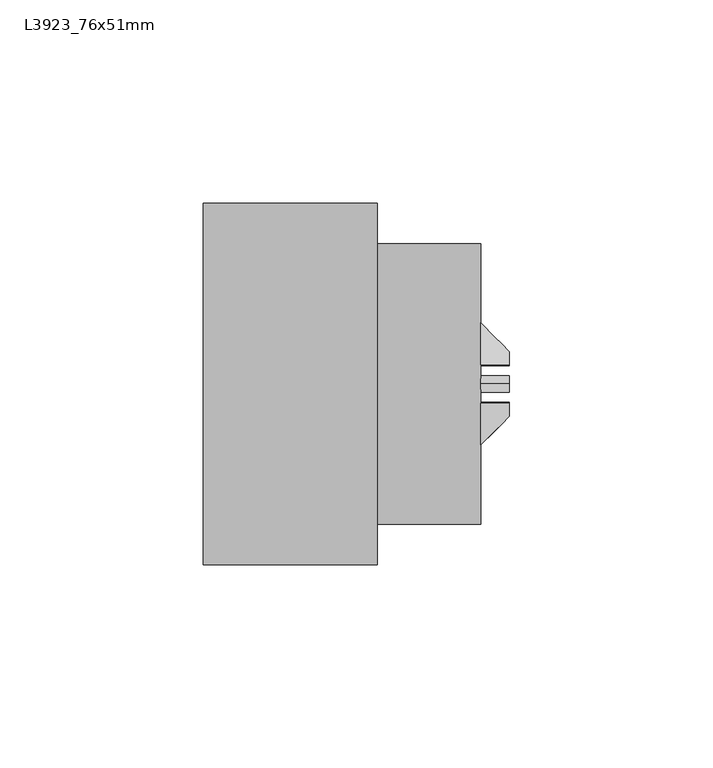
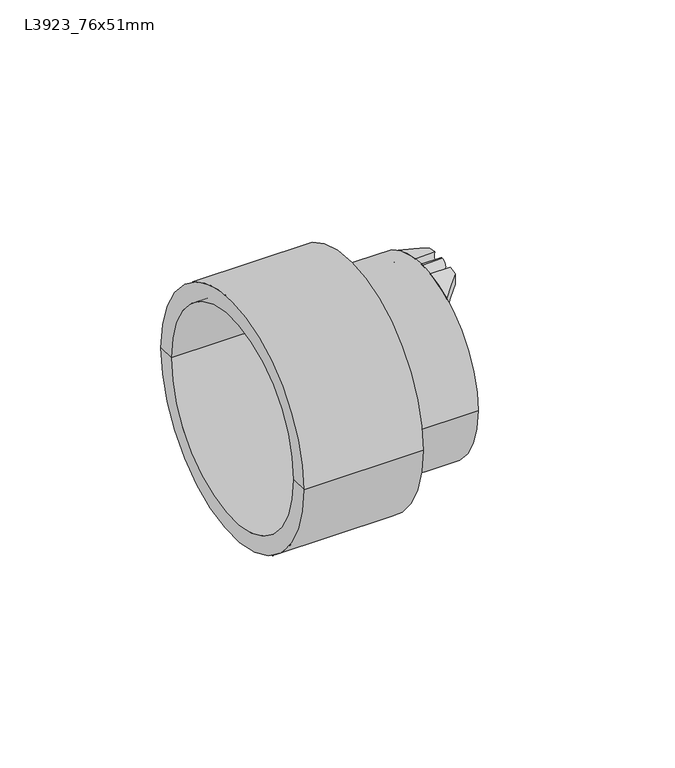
"""IFC4 building model written with IfcOpenShell, lengths in millimetres: pipe fitting geometry, Durapipe_PipeFitting_VulcatheneEnfusion_ReducingCoupler_L39 : L3923_76x51mm."""

from ifc_helpers import new_model, si_unit, point, frame, frame_2d, origin, place, context, project, spatial, polyline, circle_curve, ellipse_curve, trimmed, segment, composite_curve, outline, extrude, source, transform, mapped, element, save
from ifc_brep_helpers import plane_surface, cylinder_surface, revolved_surface, advanced_brep


def l3923_76x51mm_51930300(model_context):
    return source(origin(), model_context, "Body", "SolidModel", [
        advanced_brep(
        [(41.2, -4.4634463, 30.1716365), (41.2, -4.7382225, 34.0216365), (41.2, -7.94, 33.4197382), (41.2, -7.94, 29.4483684), (34.1, -15.0, 30.9018203), (34.1, -4.7382225, 34.0216365), (34.1, -4.4634463, 30.1716365), (34.1, -15.0, 26.5565434)],
        [
            (0, 1, circle_curve(frame((41.2, 0.0, 32.425), z_axis=(-1.0, 0.0, 0.0), x_axis=(0.0, 0.0, -1.0)), 5.0)),
            (1, 2, circle_curve(frame((41.2, 0.0, 0.0), z_axis=(1.0, 0.0, 0.0), x_axis=(0.0, 0.0, -1.0)), 34.35)),
            (2, 3),
            (3, 0, circle_curve(frame((41.2, 0.0, 0.0), z_axis=(-1.0, 0.0, 0.0), x_axis=(0.0, 0.0, -1.0)), 30.5)),
            (4, 5, circle_curve(frame((34.1, 0.0, 0.0), z_axis=(-1.0, 0.0, 0.0), x_axis=(0.0, 0.0, -1.0)), 34.35)),
            (5, 6, circle_curve(frame((34.1, 0.0, 32.425), z_axis=(1.0, 0.0, 0.0), x_axis=(0.0, 0.0, -1.0)), 5.0)),
            (6, 7, circle_curve(frame((34.1, 0.0, 0.0), z_axis=(1.0, 0.0, 0.0), x_axis=(0.0, 0.0, -1.0)), 30.5)),
            (7, 4),
            (6, 0),
            (3, 7, ellipse_curve(frame((49.1849858, 0.0, 0.0), z_axis=(0.7051064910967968, -0.7091014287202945, 0.0), x_axis=(-0.7091014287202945, -0.7051064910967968, 0.0)), 43.2558775, 30.5)),
            (4, 2, ellipse_curve(frame((49.1849858, 0.0, 0.0), z_axis=(-0.7051064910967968, 0.7091014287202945, 0.0), x_axis=(0.7091014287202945, 0.7051064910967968, 0.0)), 48.7160456, 34.35)),
            (1, 5),
        ],
        [
            plane_surface(frame((41.2, -15.0, 30.9018203), z_axis=(1.0, 0.0, 0.0), x_axis=(0.0, 0.0, -1.0))),
            plane_surface(frame((34.1, -15.0, 30.9018203), z_axis=(-1.0, 0.0, 0.0), x_axis=(0.0, 0.0, 1.0))),
            revolved_surface(polyline([(18.512181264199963, 0.0, -30.5), (79.85779033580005, 0.0, -30.5)]), (34.1, 0.0, 0.0), (-1.0, 0.0, 0.0)),
            cylinder_surface(frame((34.1, 0.0, 0.0), z_axis=(1.0, 0.0, 0.0), x_axis=(0.0, 0.0, -1.0)), 34.35),
            revolved_surface(polyline([(41.2, 0.0, 27.424999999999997), (34.1, 0.0, 27.424999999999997)]), (34.1, 0.0, 32.425), (1.0, 0.0, 0.0)),
            plane_surface(frame((34.1, -15.0, -34.35), z_axis=(0.7051064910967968, -0.7091014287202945, 0.0), x_axis=(0.0, 0.0, 1.0))),
        ],
        [
            (0, [[1, 2, 3, 4]]),
            (1, [[5, 6, 7, 8]]),
            (2, [[-7, 9, -4, 10]]),
            (3, [[-5, 11, -2, 12]]),
            (4, [[-1, -9, -6, -12]]),
            (5, [[-3, -11, -8, -10]]),
        ],
    ),
        advanced_brep(
        [(41.2, 4.7382225, 34.0216365), (41.2, 4.4634463, 30.1716365), (41.2, 7.94, 29.4483684), (41.2, 7.94, 33.4197382), (34.1, 4.7382225, 34.0216365), (34.1, 15.0, 30.9018203), (34.1, 15.0, 26.5565434), (34.1, 4.4634463, 30.1716365)],
        [
            (0, 1, circle_curve(frame((41.2, 0.0, 32.425), z_axis=(-1.0, 0.0, 0.0), x_axis=(0.0, 0.0, -1.0)), 5.0)),
            (1, 2, circle_curve(frame((41.2, 0.0, 0.0), z_axis=(-1.0, 0.0, 0.0), x_axis=(0.0, 0.0, -1.0)), 30.5)),
            (2, 3),
            (3, 0, circle_curve(frame((41.2, 0.0, 0.0), z_axis=(1.0, 0.0, 0.0), x_axis=(0.0, 0.0, -1.0)), 34.35)),
            (4, 5, circle_curve(frame((34.1, 0.0, 0.0), z_axis=(-1.0, 0.0, 0.0), x_axis=(0.0, 0.0, -1.0)), 34.35)),
            (5, 6),
            (6, 7, circle_curve(frame((34.1, 0.0, 0.0), z_axis=(1.0, 0.0, 0.0), x_axis=(0.0, 0.0, -1.0)), 30.5)),
            (7, 4, circle_curve(frame((34.1, 0.0, 32.425), z_axis=(1.0, 0.0, 0.0), x_axis=(0.0, 0.0, -1.0)), 5.0)),
            (6, 2, ellipse_curve(frame((49.1849858, 0.0, 0.0), z_axis=(0.7051064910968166, 0.7091014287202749, 0.0), x_axis=(-0.7091014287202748, 0.7051064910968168, 0.0)), 43.2558775, 30.5)),
            (1, 7),
            (4, 0),
            (3, 5, ellipse_curve(frame((49.1849858, 0.0, 0.0), z_axis=(-0.7051064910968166, -0.7091014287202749, 0.0), x_axis=(0.7091014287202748, -0.7051064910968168, 0.0)), 48.7160456, 34.35)),
        ],
        [
            plane_surface(frame((41.2, -15.0, 30.9018203), z_axis=(1.0, 0.0, 0.0), x_axis=(0.0, 0.0, -1.0))),
            plane_surface(frame((34.1, -15.0, 30.9018203), z_axis=(-1.0, 0.0, 0.0), x_axis=(0.0, 0.0, 1.0))),
            revolved_surface(polyline([(18.512181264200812, 0.0, -30.5), (79.8577903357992, 0.0, -30.5)]), (34.1, 0.0, 0.0), (-1.0, 0.0, 0.0)),
            cylinder_surface(frame((34.1, 0.0, 0.0), z_axis=(1.0, 0.0, 0.0), x_axis=(0.0, 0.0, -1.0)), 34.35),
            revolved_surface(polyline([(41.2, 0.0, 27.424999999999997), (34.1, 0.0, 27.424999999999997)]), (34.1, 0.0, 32.425), (1.0, 0.0, 0.0)),
            plane_surface(frame((41.2, 7.94, -34.35), z_axis=(0.7051064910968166, 0.7091014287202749, 0.0), x_axis=(0.0, 0.0, 1.0))),
        ],
        [
            (0, [[1, 2, 3, 4]]),
            (1, [[5, 6, 7, 8]]),
            (2, [[-7, 9, -2, 10]]),
            (3, [[-5, 11, -4, 12]]),
            (4, [[-1, -11, -8, -10]]),
            (5, [[-3, -9, -6, -12]]),
        ],
    ),
        advanced_brep(
        [(41.2, -4.7382225, -34.0216365), (41.2, -4.4634463, -30.1716365), (41.2, -7.94, -29.4483684), (41.2, -7.94, -33.4197382), (34.1, -4.7382225, -34.0216365), (34.1, -15.0, -30.9018203), (34.1, -15.0, -26.5565434), (34.1, -4.4634463, -30.1716365)],
        [
            (0, 1, circle_curve(frame((41.2, 0.0, -32.425), z_axis=(-1.0, 0.0, 0.0), x_axis=(0.0, 0.0, -1.0)), 5.0)),
            (1, 2, circle_curve(frame((41.2, 0.0, 0.0), z_axis=(-1.0, 0.0, 0.0), x_axis=(0.0, 0.0, -1.0)), 30.5)),
            (2, 3),
            (3, 0, circle_curve(frame((41.2, 0.0, 0.0), z_axis=(1.0, 0.0, 0.0), x_axis=(0.0, 0.0, -1.0)), 34.35)),
            (4, 5, circle_curve(frame((34.1, 0.0, 0.0), z_axis=(-1.0, 0.0, 0.0), x_axis=(0.0, 0.0, -1.0)), 34.35)),
            (5, 6),
            (6, 7, circle_curve(frame((34.1, 0.0, 0.0), z_axis=(1.0, 0.0, 0.0), x_axis=(0.0, 0.0, -1.0)), 30.5)),
            (7, 4, circle_curve(frame((34.1, 0.0, -32.425), z_axis=(1.0, 0.0, 0.0), x_axis=(0.0, 0.0, -1.0)), 5.0)),
            (6, 2, ellipse_curve(frame((49.1849858, 0.0, 0.0), z_axis=(0.7051064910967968, -0.7091014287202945, 0.0), x_axis=(-0.7091014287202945, -0.7051064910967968, 0.0)), 43.2558775, 30.5)),
            (1, 7),
            (4, 0),
            (3, 5, ellipse_curve(frame((49.1849858, 0.0, 0.0), z_axis=(-0.7051064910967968, 0.7091014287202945, 0.0), x_axis=(0.7091014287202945, 0.7051064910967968, 0.0)), 48.7160456, 34.35)),
        ],
        [
            plane_surface(frame((41.2, -15.0, 30.9018203), z_axis=(1.0, 0.0, 0.0), x_axis=(0.0, 0.0, -1.0))),
            plane_surface(frame((34.1, -15.0, 30.9018203), z_axis=(-1.0, 0.0, 0.0), x_axis=(0.0, 0.0, 1.0))),
            revolved_surface(polyline([(18.512181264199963, 0.0, -30.5), (79.85779033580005, 0.0, -30.5)]), (34.1, 0.0, 0.0), (-1.0, 0.0, 0.0)),
            cylinder_surface(frame((34.1, 0.0, 0.0), z_axis=(1.0, 0.0, 0.0), x_axis=(0.0, 0.0, -1.0)), 34.35),
            revolved_surface(polyline([(41.2, 0.0, -37.425), (34.1, 0.0, -37.425)]), (34.1, 0.0, -32.425), (1.0, 0.0, 0.0)),
            plane_surface(frame((34.1, -15.0, -34.35), z_axis=(0.7051064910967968, -0.7091014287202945, 0.0), x_axis=(0.0, 0.0, 1.0))),
        ],
        [
            (0, [[1, 2, 3, 4]]),
            (1, [[5, 6, 7, 8]]),
            (2, [[-7, 9, -2, 10]]),
            (3, [[-5, 11, -4, 12]]),
            (4, [[-1, -11, -8, -10]]),
            (5, [[-3, -9, -6, -12]]),
        ],
    ),
        advanced_brep(
        [(41.2, 4.4634463, -30.1716365), (41.2, 4.7382225, -34.0216365), (41.2, 7.94, -33.4197382), (41.2, 7.94, -29.4483684), (34.1, 15.0, -30.9018203), (34.1, 4.7382225, -34.0216365), (34.1, 4.4634463, -30.1716365), (34.1, 15.0, -26.5565434)],
        [
            (0, 1, circle_curve(frame((41.2, 0.0, -32.425), z_axis=(-1.0, 0.0, 0.0), x_axis=(0.0, 0.0, -1.0)), 5.0)),
            (1, 2, circle_curve(frame((41.2, 0.0, 0.0), z_axis=(1.0, 0.0, 0.0), x_axis=(0.0, 0.0, -1.0)), 34.35)),
            (2, 3),
            (3, 0, circle_curve(frame((41.2, 0.0, 0.0), z_axis=(-1.0, 0.0, 0.0), x_axis=(0.0, 0.0, -1.0)), 30.5)),
            (4, 5, circle_curve(frame((34.1, 0.0, 0.0), z_axis=(-1.0, 0.0, 0.0), x_axis=(0.0, 0.0, -1.0)), 34.35)),
            (5, 6, circle_curve(frame((34.1, 0.0, -32.425), z_axis=(1.0, 0.0, 0.0), x_axis=(0.0, 0.0, -1.0)), 5.0)),
            (6, 7, circle_curve(frame((34.1, 0.0, 0.0), z_axis=(1.0, 0.0, 0.0), x_axis=(0.0, 0.0, -1.0)), 30.5)),
            (7, 4),
            (6, 0),
            (3, 7, ellipse_curve(frame((49.1849858, 0.0, 0.0), z_axis=(0.7051064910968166, 0.7091014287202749, 0.0), x_axis=(-0.7091014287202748, 0.7051064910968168, 0.0)), 43.2558775, 30.5)),
            (4, 2, ellipse_curve(frame((49.1849858, 0.0, 0.0), z_axis=(-0.7051064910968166, -0.7091014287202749, 0.0), x_axis=(0.7091014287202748, -0.7051064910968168, 0.0)), 48.7160456, 34.35)),
            (1, 5),
        ],
        [
            plane_surface(frame((41.2, -15.0, 30.9018203), z_axis=(1.0, 0.0, 0.0), x_axis=(0.0, 0.0, -1.0))),
            plane_surface(frame((34.1, -15.0, 30.9018203), z_axis=(-1.0, 0.0, 0.0), x_axis=(0.0, 0.0, 1.0))),
            revolved_surface(polyline([(18.512181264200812, 0.0, -30.5), (79.8577903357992, 0.0, -30.5)]), (34.1, 0.0, 0.0), (-1.0, 0.0, 0.0)),
            cylinder_surface(frame((34.1, 0.0, 0.0), z_axis=(1.0, 0.0, 0.0), x_axis=(0.0, 0.0, -1.0)), 34.35),
            revolved_surface(polyline([(41.2, 0.0, -37.425), (34.1, 0.0, -37.425)]), (34.1, 0.0, -32.425), (1.0, 0.0, 0.0)),
            plane_surface(frame((41.2, 7.94, -34.35), z_axis=(0.7051064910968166, 0.7091014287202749, 0.0), x_axis=(0.0, 0.0, 1.0))),
        ],
        [
            (0, [[1, 2, 3, 4]]),
            (1, [[5, 6, 7, 8]]),
            (2, [[-7, 9, -4, 10]]),
            (3, [[-5, 11, -2, 12]]),
            (4, [[-1, -9, -6, -12]]),
            (5, [[-3, -11, -8, -10]]),
        ],
    ),
        extrude(outline(composite_curve([segment(trimmed(circle_curve(frame_2d((0.0, 32.425)), 2.0), [point((0.0, 34.425))], [point((0.0, 30.425))], False, "CARTESIAN"), True, "CONTINUOUS"), segment(trimmed(circle_curve(frame_2d((0.0, 32.425)), 2.0), [point((0.0, 30.425))], [point((0.0, 34.425))], False, "CARTESIAN"), True, "CONTINUOUS")], self_intersect=False)), frame((34.1, 0.0, 0.0), z_axis=(1.0, 0.0, 0.0), x_axis=(0.0, 1.0, 0.0)), (0.0, 0.0, 1.0), 7.1),
        extrude(outline(composite_curve([segment(trimmed(circle_curve(frame_2d((0.0, -32.425)), 2.0), [point((0.0, -30.425))], [point((0.0, -34.425))], False, "CARTESIAN"), True, "CONTINUOUS"), segment(trimmed(circle_curve(frame_2d((0.0, -32.425)), 2.0), [point((0.0, -34.425))], [point((0.0, -30.425))], False, "CARTESIAN"), True, "CONTINUOUS")], self_intersect=False)), frame((34.1, 0.0, 0.0), z_axis=(1.0, 0.0, 0.0), x_axis=(0.0, 1.0, 0.0)), (0.0, 0.0, 1.0), 7.1),
        advanced_brep(
        [(8.7, -44.45, 0.0), (8.7, 44.45, 0.0), (8.7, 34.5, 0.0), (8.7, -34.5, 0.0), (-34.1, -44.45, 0.0), (-34.1, 44.45, 0.0), (-34.1, -38.1, 0.0), (-34.1, 38.1, 0.0), (0.7, -38.1, 0.0), (0.7, 38.1, 0.0), (34.1, -30.35, 0.0), (34.1, 30.35, 0.0), (8.7, 30.35, 0.0), (8.7, -30.35, 0.0), (34.1, -34.5, 0.0), (34.1, 34.5, 0.0), (0.7, -25.45, 0.0), (0.7, 25.45, 0.0), (8.7, -25.45, 0.0), (8.7, 25.45, 0.0)],
        [
            (0, 1, circle_curve(frame((8.7, 0.0, 0.0), z_axis=(1.0, 0.0, 0.0), x_axis=(0.0, 1.0, 0.0)), 44.45)),
            (1, 2),
            (2, 3, circle_curve(frame((8.7, 0.0, 0.0), z_axis=(-1.0, 0.0, 0.0), x_axis=(0.0, 1.0, 0.0)), 34.5)),
            (3, 0),
            (1, 0, circle_curve(frame((8.7, 0.0, 0.0), z_axis=(1.0, 0.0, 0.0), x_axis=(0.0, 1.0, 0.0)), 44.45)),
            (3, 2, circle_curve(frame((8.7, 0.0, 0.0), z_axis=(-1.0, 0.0, 0.0), x_axis=(0.0, 1.0, 0.0)), 34.5)),
            (4, 5, circle_curve(frame((-34.1, 0.0, 0.0), z_axis=(1.0, 0.0, 0.0), x_axis=(0.0, 1.0, 0.0)), 44.45)),
            (5, 1),
            (0, 4),
            (5, 4, circle_curve(frame((-34.1, 0.0, 0.0), z_axis=(1.0, 0.0, 0.0), x_axis=(0.0, 1.0, 0.0)), 44.45)),
            (6, 7, circle_curve(frame((-34.1, 0.0, 0.0), z_axis=(1.0, 0.0, 0.0), x_axis=(0.0, 1.0, 0.0)), 38.1)),
            (7, 5),
            (4, 6),
            (7, 6, circle_curve(frame((-34.1, 0.0, 0.0), z_axis=(1.0, 0.0, 0.0), x_axis=(0.0, 1.0, 0.0)), 38.1)),
            (8, 9, circle_curve(frame((0.7, 0.0, 0.0), z_axis=(1.0, 0.0, 0.0), x_axis=(0.0, 1.0, 0.0)), 38.1)),
            (9, 7),
            (6, 8),
            (9, 8, circle_curve(frame((0.7, 0.0, 0.0), z_axis=(1.0, 0.0, 0.0), x_axis=(0.0, 1.0, 0.0)), 38.1)),
            (10, 11, circle_curve(frame((34.1, 0.0, 0.0), z_axis=(1.0, 0.0, 0.0), x_axis=(0.0, 1.0, 0.0)), 30.35)),
            (11, 12),
            (12, 13, circle_curve(frame((8.7, 0.0, 0.0), z_axis=(-1.0, 0.0, 0.0), x_axis=(0.0, 1.0, 0.0)), 30.35)),
            (13, 10),
            (11, 10, circle_curve(frame((34.1, 0.0, 0.0), z_axis=(1.0, 0.0, 0.0), x_axis=(0.0, 1.0, 0.0)), 30.35)),
            (13, 12, circle_curve(frame((8.7, 0.0, 0.0), z_axis=(-1.0, 0.0, 0.0), x_axis=(0.0, 1.0, 0.0)), 30.35)),
            (14, 15, circle_curve(frame((34.1, 0.0, 0.0), z_axis=(1.0, 0.0, 0.0), x_axis=(0.0, 1.0, 0.0)), 34.5)),
            (15, 11),
            (10, 14),
            (15, 14, circle_curve(frame((34.1, 0.0, 0.0), z_axis=(1.0, 0.0, 0.0), x_axis=(0.0, 1.0, 0.0)), 34.5)),
            (2, 15),
            (14, 3),
            (16, 17, circle_curve(frame((0.7, 0.0, 0.0), z_axis=(1.0, 0.0, 0.0), x_axis=(0.0, 1.0, 0.0)), 25.45)),
            (17, 9),
            (8, 16),
            (17, 16, circle_curve(frame((0.7, 0.0, 0.0), z_axis=(1.0, 0.0, 0.0), x_axis=(0.0, 1.0, 0.0)), 25.45)),
            (18, 19, circle_curve(frame((8.7, 0.0, 0.0), z_axis=(1.0, 0.0, 0.0), x_axis=(0.0, 1.0, 0.0)), 25.45)),
            (19, 17),
            (16, 18),
            (19, 18, circle_curve(frame((8.7, 0.0, 0.0), z_axis=(1.0, 0.0, 0.0), x_axis=(0.0, 1.0, 0.0)), 25.45)),
            (12, 19),
            (18, 13),
        ],
        [
            plane_surface(frame((8.7, 0.0, 0.0), z_axis=(1.0, 0.0, 0.0), x_axis=(0.0, 1.0, 0.0))),
            cylinder_surface(frame((1563.6018184, 0.0, 0.0), z_axis=(-1.0, 0.0, 0.0), x_axis=(0.0, 1.0, 0.0)), 44.45),
            plane_surface(frame((-34.1, 0.0, 0.0), z_axis=(-1.0, 0.0, 0.0), x_axis=(0.0, 1.0, 0.0))),
            revolved_surface(polyline([(-34.09999999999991, 38.1, 0.0), (0.7000000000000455, 38.1, 0.0)]), (1563.6018184, 0.0, 0.0), (-1.0, 0.0, 0.0)),
            revolved_surface(polyline([(8.700000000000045, 30.35, 0.0), (34.09999999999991, 30.35, 0.0)]), (1563.6018184, 0.0, 0.0), (-1.0, 0.0, 0.0)),
            plane_surface(frame((34.1, 0.0, 0.0), z_axis=(1.0, 0.0, 0.0), x_axis=(0.0, 1.0, 0.0))),
            cylinder_surface(frame((1563.6018184, 0.0, 0.0), z_axis=(-1.0, 0.0, 0.0), x_axis=(0.0, 1.0, 0.0)), 34.5),
            plane_surface(frame((0.7, 0.0, 0.0), z_axis=(-1.0, 0.0, 0.0), x_axis=(0.0, 1.0, 0.0))),
            revolved_surface(polyline([(0.7000000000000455, 25.45, 0.0), (8.700000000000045, 25.45, 0.0)]), (1563.6018184, 0.0, 0.0), (-1.0, 0.0, 0.0)),
        ],
        [
            (0, [[1, 2, 3, 4]]),
            (0, [[5, -4, 6, -2]]),
            (1, [[7, 8, -1, 9]]),
            (1, [[10, -9, -5, -8]]),
            (2, [[11, 12, -7, 13]]),
            (2, [[14, -13, -10, -12]]),
            (3, [[15, 16, -11, 17]]),
            (3, [[18, -17, -14, -16]]),
            (4, [[19, 20, 21, 22]]),
            (4, [[23, -22, 24, -20]]),
            (5, [[25, 26, -19, 27]]),
            (5, [[28, -27, -23, -26]]),
            (6, [[-3, 29, -25, 30]]),
            (6, [[-6, -30, -28, -29]]),
            (7, [[31, 32, -15, 33]]),
            (7, [[34, -33, -18, -32]]),
            (8, [[35, 36, -31, 37]]),
            (8, [[38, -37, -34, -36]]),
            (0, [[-21, 39, -35, 40]]),
            (0, [[-24, -40, -38, -39]]),
        ],
    ),
    ])


if __name__ == "__main__":
    model = new_model("IFC4")
    model_context = context("Model", 3, world=origin())
    ifc_project = project(units=[si_unit("LENGTHUNIT", "METRE", prefix="MILLI")], contexts=[model_context])
    site = spatial("IfcSite", under=ifc_project)
    building = spatial("IfcBuilding", under=site)
    placement = place(None, origin())
    l3923_76x51mm_shape = l3923_76x51mm_51930300(model_context)
    element("IfcPipeFitting", 1, ObjectType="Durapipe_PipeFitting_VulcatheneEnfusion_ReducingCoupler_L39 : L3923_76x51mm", at=placement, inside=building, context=model_context, shape_type="MappedRepresentation", body=[
        mapped(l3923_76x51mm_shape, transform((0.0, 0.0, 0.0), x_axis=(1.0, 0.0, 0.0), y_axis=(0.0, 1.0, 0.0), z_axis=(0.0, 0.0, 1.0))),
    ])
    save(model, "model.ifc")
